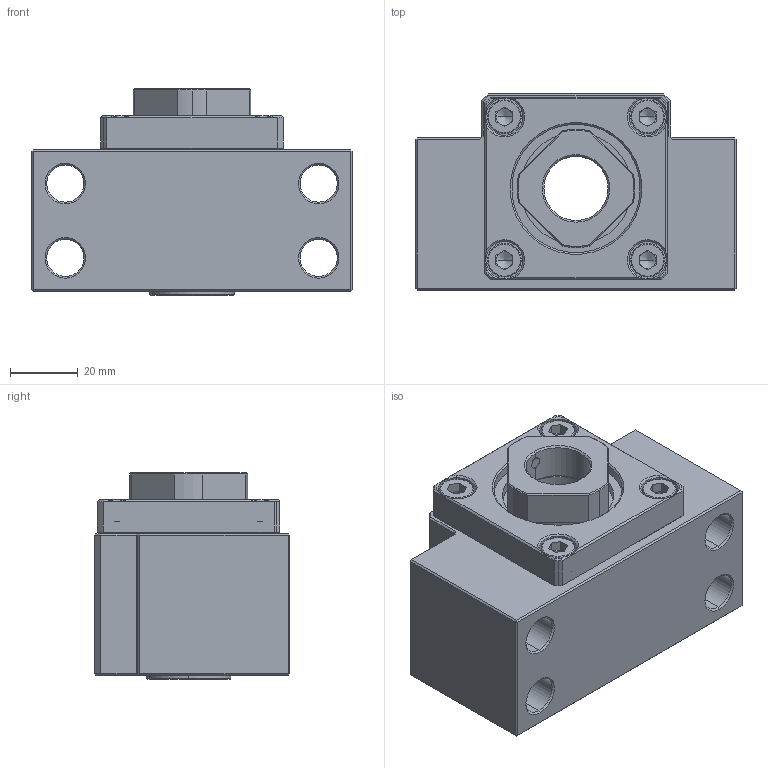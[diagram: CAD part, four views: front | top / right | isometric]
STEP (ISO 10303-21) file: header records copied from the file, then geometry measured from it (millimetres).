
FILE_DESCRIPTION (( 'STEP AP203' ), '1' );
FILE_NAME ('ASGK-20_203.STEP', '2013-02-27T23:51:16', ( '' ), ( '' ), 'SwSTEP 2.0', 'SolidWorks 2012', '' );
FILE_SCHEMA (( 'CONFIG_CONTROL_DESIGN' ));
Length unit declared in the file: millimetre
Products named in the file (1): ASGK-20_203
Bounding box: 95 x 58 x 61 mm (x, y, z)
Volume: 195411 mm3; surface area: 44723.9 mm2
Topology: 1 solids, 16 shells, 440 faces, 971 edges, 560 vertices
Faces by surface type: plane 177, cylinder 119, cone 104, torus 40
Entity records: 12111 total; most frequent: DIRECTION 2220, CARTESIAN_POINT 2211, ORIENTED_EDGE 1906, EDGE_CURVE 953, AXIS2_PLACEMENT_3D 873, VERTEX_POINT 560, EDGE_LOOP 485, VECTOR 474
